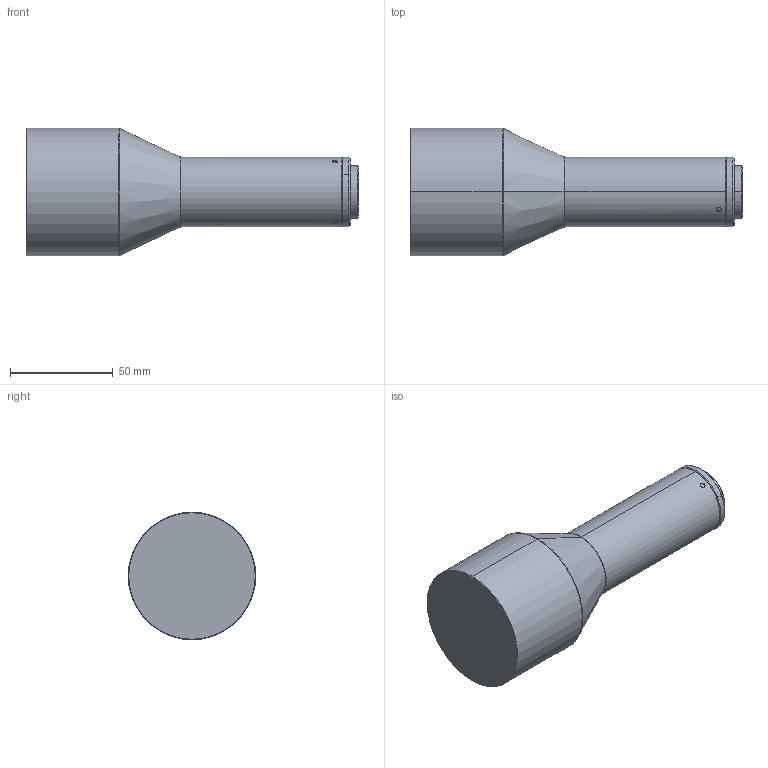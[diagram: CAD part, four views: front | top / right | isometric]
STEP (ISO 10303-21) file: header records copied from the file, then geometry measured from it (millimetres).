
FILE_DESCRIPTION (( 'STEP AP203' ), '1' );
FILE_NAME ('WWK04-110-111俋倰.STEP', '2025-04-21T07:37:41', ( '' ), ( '' ), 'SwSTEP 2.0', 'SolidWorks 2017', '' );
FILE_SCHEMA (( 'CONFIG_CONTROL_DESIGN' ));
Length unit declared in the file: millimetre
Products named in the file (1): WWK04-110-111俋倰
Bounding box: 161.27 x 62 x 62 mm (x, y, z)
Volume: 268374 mm3; surface area: 27427.8 mm2
Topology: 1 solids, 1 shells, 40 faces, 78 edges, 46 vertices
Faces by surface type: cylinder 19, cone 12, plane 5, torus 4
Entity records: 1297 total; most frequent: CARTESIAN_POINT 393, DIRECTION 186, ORIENTED_EDGE 156, AXIS2_PLACEMENT_3D 79, EDGE_CURVE 78, VERTEX_POINT 46, EDGE_LOOP 46, FACE_OUTER_BOUND 40
